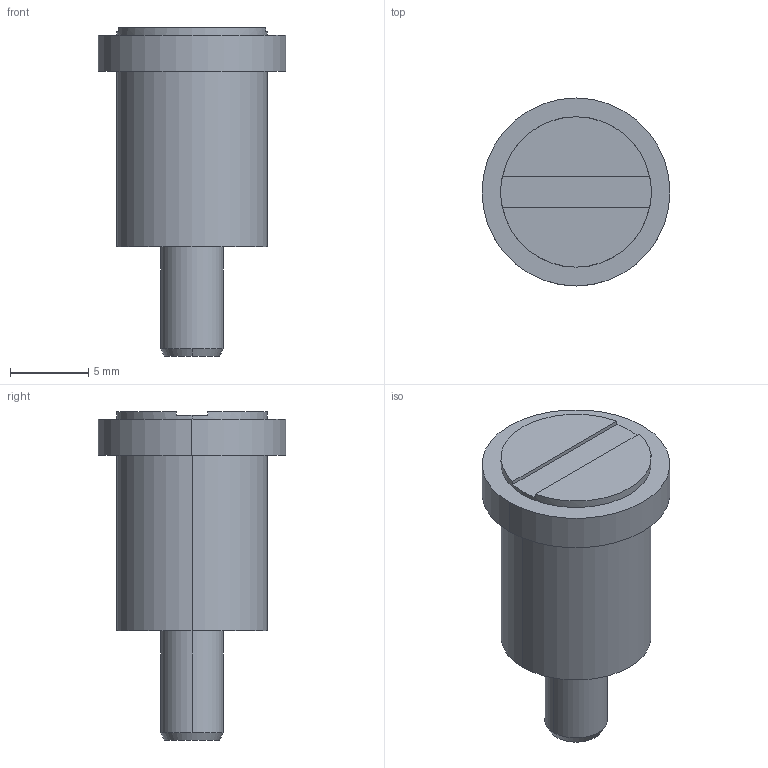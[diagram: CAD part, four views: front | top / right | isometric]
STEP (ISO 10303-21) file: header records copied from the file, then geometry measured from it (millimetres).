
FILE_DESCRIPTION(('STEP AP203'),'1');
FILE_NAME(' ',' ',('TraceParts'),('TraceParts S.A.'),'XStep 1.0',' ',' ');
FILE_SCHEMA(('CONFIG_CONTROL_DESIGN'));
Length unit declared in the file: millimetre
Products named in the file (1): 1
Bounding box: 12 x 12 x 21 mm (x, y, z)
Volume: 1189.4 mm3; surface area: 754.8 mm2
Topology: 1 solids, 1 shells, 19 faces, 42 edges, 28 vertices
Faces by surface type: plane 9, cylinder 8, cone 2
Entity records: 584 total; most frequent: DIRECTION 106, CARTESIAN_POINT 90, ORIENTED_EDGE 84, AXIS2_PLACEMENT_3D 44, EDGE_CURVE 42, VERTEX_POINT 28, CIRCLE 24, EDGE_LOOP 22
